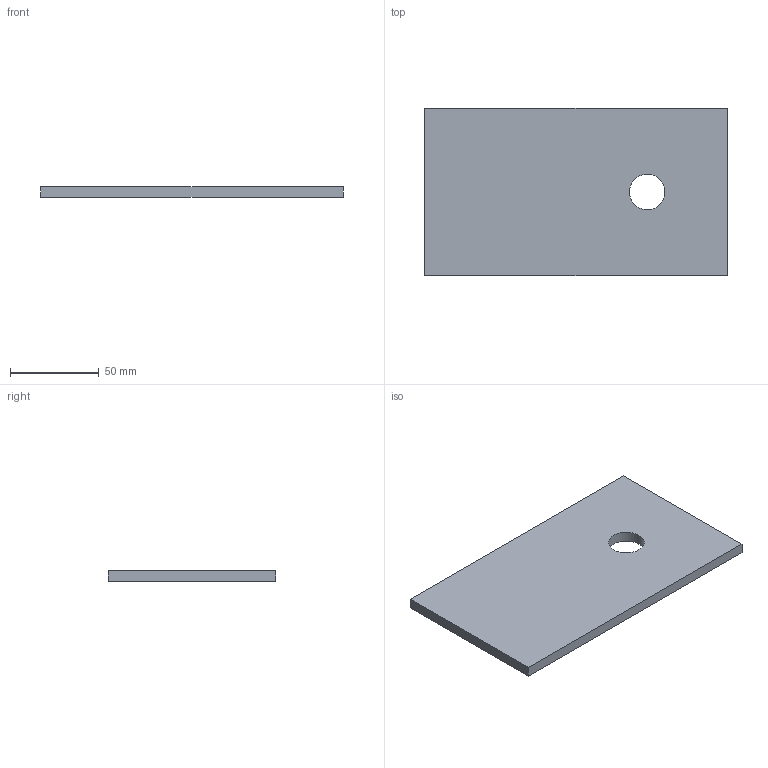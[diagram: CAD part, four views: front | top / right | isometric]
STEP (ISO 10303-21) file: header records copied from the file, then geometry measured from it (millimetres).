
FILE_DESCRIPTION(('Open CASCADE Model'),'2;1');
FILE_NAME('Open CASCADE Shape Model','2026-10-04T02:31:36',('Author'),( 'Open CASCADE'),'Open CASCADE STEP processor 8.0','Open CASCADE 8.0' ,'Unknown');
FILE_SCHEMA(('AUTOMOTIVE_DESIGN { 1 0 10303 214 1 1 1 1 }'));
Length unit declared in the file: millimetre
Products named in the file (1): Open CASCADE STEP translator 8.0 76
Bounding box: 170 x 94 x 6 mm (x, y, z)
Volume: 93995 mm3; surface area: 34876.7 mm2
Topology: 1 solids, 1 shells, 7 faces, 15 edges, 10 vertices
Faces by surface type: plane 6, cylinder 1
Full cylindrical faces by diameter (mm): 20 x1
Entity records: 400 total; most frequent: CARTESIAN_POINT 63, DIRECTION 63, LINE 41, VECTOR 41, ORIENTED_EDGE 30, PCURVE 30, DEFINITIONAL_REPRESENTATION 30, EDGE_CURVE 15
